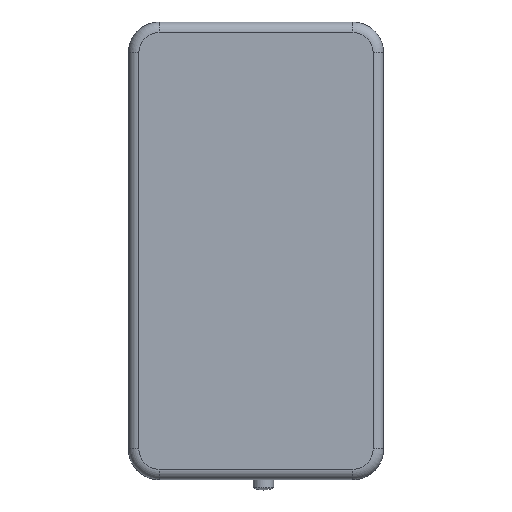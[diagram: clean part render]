
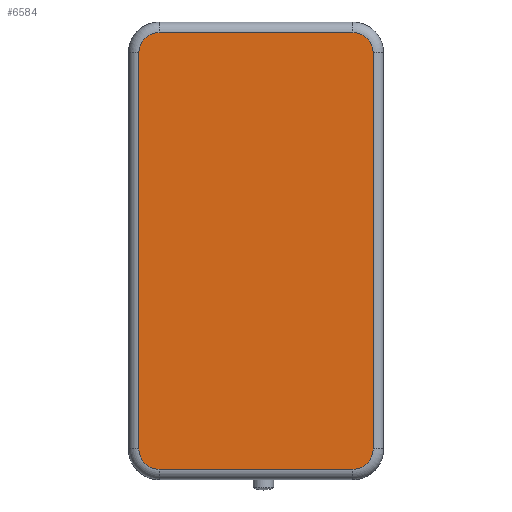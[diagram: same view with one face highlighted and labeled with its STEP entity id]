
A CAD part, front view. The second image highlights one B-rep face of the part: STEP entity #6584.
In plain terms, the highlighted planar face has unit normal (0, -1, 0).
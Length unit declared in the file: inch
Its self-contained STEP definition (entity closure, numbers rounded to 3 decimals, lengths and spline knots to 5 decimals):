
#109 = DIRECTION ( 'NONE',  ( 1., 0., 0. ) ) ;
#414 = DIRECTION ( 'NONE',  ( 1., 0., 0. ) ) ;
#438 = VERTEX_POINT ( 'NONE', #4333 ) ;
#576 = VERTEX_POINT ( 'NONE', #2294 ) ;
#674 = CARTESIAN_POINT ( 'NONE',  ( 2.105, -0.23725, -0.614 ) ) ;
#842 = DIRECTION ( 'NONE',  ( 1., 0., 0. ) ) ;
#915 = VERTEX_POINT ( 'NONE', #7772 ) ;
#1239 = ORIENTED_EDGE ( 'NONE', *, *, #12255, .T. ) ;
#1366 = DIRECTION ( 'NONE',  ( 0., 0., 1. ) ) ;
#1444 = EDGE_CURVE ( 'NONE', #7102, #4304, #6513, .T. ) ;
#1579 = EDGE_CURVE ( 'NONE', #576, #5005, #10205, .T. ) ;
#1687 = DIRECTION ( 'NONE',  ( 1., 0., 0. ) ) ;
#1699 = DIRECTION ( 'NONE',  ( 1., 0., 0. ) ) ;
#1781 = CIRCLE ( 'NONE', #11773, 0.19778 ) ;
#1995 = VECTOR ( 'NONE', #1366, 39.37008 ) ;
#2223 = CIRCLE ( 'NONE', #10952, 0.19778 ) ;
#2294 = CARTESIAN_POINT ( 'NONE',  ( 0.22, -0.23725, -0.81178 ) ) ;
#2580 = CARTESIAN_POINT ( 'NONE',  ( 0.02222, -0.23725, -0.614 ) ) ;
#2785 = CARTESIAN_POINT ( 'NONE',  ( 2.105, -0.23725, -0.81178 ) ) ;
#3365 = VECTOR ( 'NONE', #11345, 39.37008 ) ;
#3503 = AXIS2_PLACEMENT_3D ( 'NONE', #12642, #6825, #842 ) ;
#3630 = EDGE_CURVE ( 'NONE', #9273, #7102, #9707, .T. ) ;
#3741 = ORIENTED_EDGE ( 'NONE', *, *, #9757, .T. ) ;
#4304 = VERTEX_POINT ( 'NONE', #5818 ) ;
#4333 = CARTESIAN_POINT ( 'NONE',  ( 2.30278, -0.23725, -0.614 ) ) ;
#4336 = LINE ( 'NONE', #10315, #1995 ) ;
#4846 = CIRCLE ( 'NONE', #6184, 0.19778 ) ;
#5004 = EDGE_CURVE ( 'NONE', #6118, #576, #2223, .T. ) ;
#5005 = VERTEX_POINT ( 'NONE', #2785 ) ;
#5403 = CARTESIAN_POINT ( 'NONE',  ( 0.02222, -0.23725, -0.614 ) ) ;
#5433 = CARTESIAN_POINT ( 'NONE',  ( 0.22, -0.23725, 3.43778 ) ) ;
#5783 = DIRECTION ( 'NONE',  ( 0., -1., 0. ) ) ;
#5818 = CARTESIAN_POINT ( 'NONE',  ( 0.22, -0.23725, 3.43778 ) ) ;
#6014 = LINE ( 'NONE', #5403, #3365 ) ;
#6104 = DIRECTION ( 'NONE',  ( 0., -1., 0. ) ) ;
#6118 = VERTEX_POINT ( 'NONE', #2580 ) ;
#6184 = AXIS2_PLACEMENT_3D ( 'NONE', #674, #7641, #1687 ) ;
#6235 = ORIENTED_EDGE ( 'NONE', *, *, #5004, .T. ) ;
#6398 = DIRECTION ( 'NONE',  ( 0., -1., 0. ) ) ;
#6449 = ORIENTED_EDGE ( 'NONE', *, *, #10858, .T. ) ;
#6513 = LINE ( 'NONE', #5433, #8832 ) ;
#6584 = ADVANCED_FACE ( 'NONE', ( #11313 ), #7759, .T. ) ;
#6825 = DIRECTION ( 'NONE',  ( 0., -1., 0. ) ) ;
#6885 = CARTESIAN_POINT ( 'NONE',  ( 2.30278, -0.23725, 3.24 ) ) ;
#6928 = ORIENTED_EDGE ( 'NONE', *, *, #7025, .T. ) ;
#7025 = EDGE_CURVE ( 'NONE', #438, #9273, #4336, .T. ) ;
#7102 = VERTEX_POINT ( 'NONE', #11434 ) ;
#7577 = VECTOR ( 'NONE', #1699, 39.37008 ) ;
#7641 = DIRECTION ( 'NONE',  ( 0., -1., 0. ) ) ;
#7737 = ORIENTED_EDGE ( 'NONE', *, *, #1444, .T. ) ;
#7759 = PLANE ( 'NONE',  #3503 ) ;
#7772 = CARTESIAN_POINT ( 'NONE',  ( 0.02222, -0.23725, 3.24 ) ) ;
#8832 = VECTOR ( 'NONE', #9444, 39.37008 ) ;
#9273 = VERTEX_POINT ( 'NONE', #6885 ) ;
#9444 = DIRECTION ( 'NONE',  ( -1., 0., 0. ) ) ;
#9707 = CIRCLE ( 'NONE', #11510, 0.19778 ) ;
#9757 = EDGE_CURVE ( 'NONE', #5005, #438, #4846, .T. ) ;
#10205 = LINE ( 'NONE', #12580, #7577 ) ;
#10315 = CARTESIAN_POINT ( 'NONE',  ( 2.30278, -0.23725, 3.24 ) ) ;
#10858 = EDGE_CURVE ( 'NONE', #915, #6118, #6014, .T. ) ;
#10898 = ORIENTED_EDGE ( 'NONE', *, *, #1579, .T. ) ;
#10952 = AXIS2_PLACEMENT_3D ( 'NONE', #11715, #5783, #12699 ) ;
#11313 = FACE_OUTER_BOUND ( 'NONE', #12382, .T. ) ;
#11345 = DIRECTION ( 'NONE',  ( 0., 0., -1. ) ) ;
#11434 = CARTESIAN_POINT ( 'NONE',  ( 2.105, -0.23725, 3.43778 ) ) ;
#11510 = AXIS2_PLACEMENT_3D ( 'NONE', #12322, #6398, #414 ) ;
#11715 = CARTESIAN_POINT ( 'NONE',  ( 0.22, -0.23725, -0.614 ) ) ;
#11773 = AXIS2_PLACEMENT_3D ( 'NONE', #12033, #6104, #109 ) ;
#12033 = CARTESIAN_POINT ( 'NONE',  ( 0.22, -0.23725, 3.24 ) ) ;
#12062 = ORIENTED_EDGE ( 'NONE', *, *, #3630, .T. ) ;
#12255 = EDGE_CURVE ( 'NONE', #4304, #915, #1781, .T. ) ;
#12322 = CARTESIAN_POINT ( 'NONE',  ( 2.105, -0.23725, 3.24 ) ) ;
#12382 = EDGE_LOOP ( 'NONE', ( #7737, #1239, #6449, #6235, #10898, #3741, #6928, #12062 ) ) ;
#12580 = CARTESIAN_POINT ( 'NONE',  ( 2.105, -0.23725, -0.81178 ) ) ;
#12642 = CARTESIAN_POINT ( 'NONE',  ( 0., -0.23725, 0. ) ) ;
#12699 = DIRECTION ( 'NONE',  ( 1., 0., 0. ) ) ;
